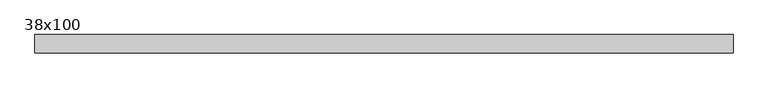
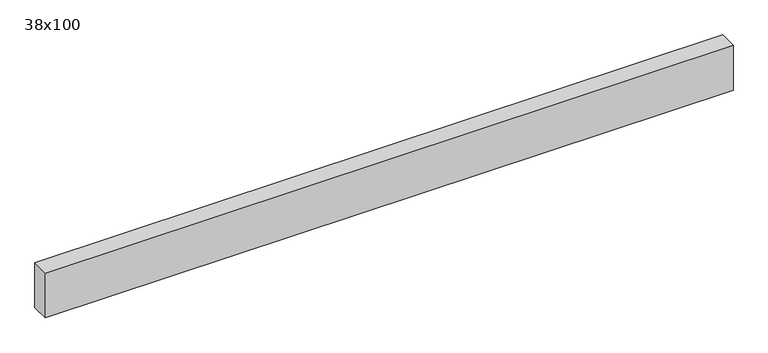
"""IFC4 building model written with IfcOpenShell, lengths in millimetres: beam geometry, Poutre - Bois de construction de dimensions courantes : 38x100."""

import ifcopenshell
import ifcopenshell.guid

model = None  # the IFC model being written
_history = None  # IfcOwnerHistory: only IFC2X3 demands one
_inside = {}  # id of a spatial element -> (the spatial element, [elements in it])
_under = {}  # id of a project, library or spatial element -> (it, [spatial elements below it])
_declared = {}  # id of a project -> (the project, [libraries it declares])
_typed = {}  # id of a type object -> (the type object, [elements of that type])
_made_of = {}  # id of a material, layer set ... -> (it, [elements and type objects made of it])


def new_model(schema):
    """Start an empty IFC model of exactly this schema.

    Asked for "IFC4X3", IfcOpenShell would pick the latest addendum, in which some entities
    have other attributes; the version numbers below select the first issue.
    IFC2X3 requires an IfcOwnerHistory on every rooted entity: one is made here for all.
    """
    global model, _history
    if schema == "IFC4X3":
        model = ifcopenshell.file(schema_version=(4, 3, 0, 0))
    else:
        model = ifcopenshell.file(schema=schema)
    _inside.clear()
    _under.clear()
    _declared.clear()
    _typed.clear()
    _made_of.clear()
    _history = None
    if model.schema == "IFC2X3":
        org = make("IfcOrganization", Name="unknown")
        user = make(
            "IfcPersonAndOrganization",
            ThePerson=make("IfcPerson", FamilyName="unknown"),
            TheOrganization=org,
        )
        app = make(
            "IfcApplication",
            ApplicationDeveloper=org,
            Version="unknown",
            ApplicationFullName="unknown",
            ApplicationIdentifier="unknown",
        )
        _history = make(
            "IfcOwnerHistory",
            OwningUser=user,
            OwningApplication=app,
            ChangeAction="ADDED",
            CreationDate=0,
        )
    return model


def make(cls, **values):
    """One entity of the class cls with the attributes given. An attribute that is None is left unset."""
    return model.create_entity(
        cls, **{name: value for name, value in values.items() if value is not None}
    )


def rooted(cls, **values):
    """An entity with a GlobalId (a new one), such as an element, a storey or a relation."""
    return make(cls, GlobalId=ifcopenshell.guid.new(), OwnerHistory=_history, **values)


def si_unit(unit_type, name, prefix=None):
    """IfcSIUnit, for example si_unit("LENGTHUNIT", "METRE", prefix="MILLI")."""
    return make("IfcSIUnit", UnitType=unit_type, Prefix=prefix, Name=name)


def assignment(units):
    """IfcUnitAssignment: the units of a project."""
    return None if units is None else make("IfcUnitAssignment", Units=units)


def point(xyz):
    """IfcCartesianPoint."""
    return None if xyz is None else make("IfcCartesianPoint", Coordinates=xyz)


def direction(xyz):
    """IfcDirection."""
    return None if xyz is None else make("IfcDirection", DirectionRatios=xyz)


def frame(location, z_axis=None, x_axis=None):
    """IfcAxis2Placement3D, a coordinate frame: its origin and axes. An axis left out is left unset."""
    return make(
        "IfcAxis2Placement3D",
        Location=point(location),
        Axis=direction(z_axis),
        RefDirection=direction(x_axis),
    )


def origin():
    """The frame at (0, 0, 0) with its axes left unset."""
    return frame((0.0, 0.0, 0.0))


def place(relative_to, where):
    """IfcLocalPlacement: puts the frame where relative to a parent placement (None: the world)."""
    return make(
        "IfcLocalPlacement", PlacementRelTo=relative_to, RelativePlacement=where
    )


def context(
    kind, dimensions, precision=None, world=None, true_north=None, identifier=None
):
    """IfcGeometricRepresentationContext, for example the 3D "Model" context."""
    return make(
        "IfcGeometricRepresentationContext",
        ContextIdentifier=identifier,
        ContextType=kind,
        CoordinateSpaceDimension=dimensions,
        Precision=precision,
        WorldCoordinateSystem=world,
        TrueNorth=true_north,
    )


def project(units=None, contexts=None):
    """IfcProject with its units and contexts."""
    return rooted(
        "IfcProject",
        Name="project",
        RepresentationContexts=contexts,
        UnitsInContext=assignment(units),
    )


def spatial(cls, under=None, at=None, **own):
    """A site, building, storey or space (cls), placed at a placement, below another one or the project."""
    s = rooted(cls, ObjectPlacement=at, **own)
    if under is not None:
        _under.setdefault(under.id(), (under, []))[1].append(s)
    return s


def polyline(points):
    """IfcPolyline through the points."""
    return make("IfcPolyline", Points=[point(p) for p in points])


def outline(outer, holes=None, kind="AREA"):
    """IfcArbitraryClosedProfileDef: a profile drawn as a closed curve; with holes, ...WithVoids."""
    if holes is None:
        return make("IfcArbitraryClosedProfileDef", ProfileType=kind, OuterCurve=outer)
    return make(
        "IfcArbitraryProfileDefWithVoids",
        ProfileType=kind,
        OuterCurve=outer,
        InnerCurves=holes,
    )


def extrude(swept, where, along, depth):
    """IfcExtrudedAreaSolid: the profile swept, set in the frame where, extruded along a direction by depth."""
    return make(
        "IfcExtrudedAreaSolid",
        SweptArea=swept,
        Position=where,
        ExtrudedDirection=direction(along),
        Depth=depth,
    )


def shape(context_of_items, identifier, shape_type, items):
    """IfcShapeRepresentation: the items that make up one representation, for example the "Body"."""
    return make(
        "IfcShapeRepresentation",
        ContextOfItems=context_of_items,
        RepresentationIdentifier=identifier,
        RepresentationType=shape_type,
        Items=items,
    )


def source(mapping_origin, context_of_items, identifier, shape_type, items):
    """IfcRepresentationMap: a shape defined once, which mapped items show again and again."""
    return make(
        "IfcRepresentationMap",
        MappingOrigin=mapping_origin,
        MappedRepresentation=shape(context_of_items, identifier, shape_type, items),
    )


def transform(
    local_origin,
    x_axis=None,
    y_axis=None,
    z_axis=None,
    scale=None,
    scale2=None,
    scale3=None,
    uniform=True,
):
    """IfcCartesianTransformationOperator3D, or its non-uniform kind. x_axis, y_axis, z_axis: its Axis1, 2, 3."""
    if uniform:
        return make(
            "IfcCartesianTransformationOperator3D",
            Axis1=direction(x_axis),
            Axis2=direction(y_axis),
            LocalOrigin=point(local_origin),
            Scale=scale,
            Axis3=direction(z_axis),
        )
    return make(
        "IfcCartesianTransformationOperator3DnonUniform",
        Axis1=direction(x_axis),
        Axis2=direction(y_axis),
        LocalOrigin=point(local_origin),
        Scale=scale,
        Axis3=direction(z_axis),
        Scale2=scale2,
        Scale3=scale3,
    )


def mapped(mapping_source, mapping_target):
    """IfcMappedItem: shows the shape of a source again, moved by a transform."""
    return make(
        "IfcMappedItem", MappingSource=mapping_source, MappingTarget=mapping_target
    )


def made_of(thing, what):
    """Note that an element or type object is made of a material, layer set ...; save() writes the relation."""
    if what is not None:
        _made_of.setdefault(what.id(), (what, []))[1].append(thing)
    return thing


def element(
    cls,
    number,
    at=None,
    inside=None,
    cuts=None,
    type_object=None,
    material=None,
    context=None,
    identifier="Body",
    shape_type=None,
    held_by="IfcProductDefinitionShape",
    body=None,
    shapes=None,
    **own,
):
    """One element of the class cls, such as IfcWall. Its Tag is "e" and its number.

    at: its placement. inside: the storey or other place that contains it. cuts: it is an
    opening in that element (IfcRelVoidsElement). A single representation is given by context,
    identifier, shape_type and body (its items); several are given by shapes. held_by: the class
    of the entity that holds the representations. save() writes the other relations.
    """
    e = rooted(cls, Tag="e%d" % number, ObjectPlacement=at, **own)
    if body is not None:
        shapes = [shape(context, identifier, shape_type, body)]
    if shapes is not None:
        e.Representation = make(held_by, Representations=shapes)
    if inside is not None:
        _inside.setdefault(inside.id(), (inside, []))[1].append(e)
    if cuts is not None:
        rooted(
            "IfcRelVoidsElement", RelatingBuildingElement=cuts, RelatedOpeningElement=e
        )
    if type_object is not None:
        _typed.setdefault(type_object.id(), (type_object, []))[1].append(e)
    return made_of(e, material)


def aggregate(whole, parts):
    """IfcRelAggregates: a whole, such as a stair, and the parts it consists of."""
    return rooted("IfcRelAggregates", RelatingObject=whole, RelatedObjects=parts)


def save(model, path):
    """Write the relations noted so far, then the file.

    IfcRelAggregates (storeys below a building ...), IfcRelContainedInSpatialStructure (elements
    in a storey), IfcRelDefinesByType, IfcRelAssociatesMaterial and IfcRelDeclares: one each for
    every whole, place, type object, material and project.
    """
    for whole, parts in _under.values():
        aggregate(whole, parts)
    for where, things in _inside.values():
        rooted(
            "IfcRelContainedInSpatialStructure",
            RelatedElements=things,
            RelatingStructure=where,
        )
    for kind, things in _typed.values():
        rooted("IfcRelDefinesByType", RelatedObjects=things, RelatingType=kind)
    for what, things in _made_of.values():
        rooted("IfcRelAssociatesMaterial", RelatedObjects=things, RelatingMaterial=what)
    for by, libraries in _declared.values():
        rooted("IfcRelDeclares", RelatingContext=by, RelatedDefinitions=libraries)
    model.write(path)


def beam_38x100_5c131170(model_context):
    return source(origin(), model_context, "Body", "SweptSolid", [
        extrude(outline(polyline([(703.5, 19.05), (703.5, -19.05), (-743.5, -19.05), (-743.5, 19.05), (703.5, 19.05)])), frame((0.0, 0.0, -50.0), z_axis=(0.0, 0.0, 1.0), x_axis=(1.0, 0.0, 0.0)), (0.0, 0.0, 1.0), 100.0),
    ])


if __name__ == "__main__":
    model = new_model("IFC4")
    model_context = context("Model", 3, world=origin())
    ifc_project = project(units=[si_unit("LENGTHUNIT", "METRE", prefix="MILLI")], contexts=[model_context])
    site = spatial("IfcSite", under=ifc_project)
    building = spatial("IfcBuilding", under=site)
    placement = place(None, origin())
    beam_38x100_shape = beam_38x100_5c131170(model_context)
    element("IfcBeam", 1, ObjectType="Poutre - Bois de construction de dimensions courantes : 38x100", at=placement, inside=building, context=model_context, shape_type="MappedRepresentation", body=[
        mapped(beam_38x100_shape, transform((0.0, 0.0, 0.0), x_axis=(1.0, 0.0, 0.0), y_axis=(0.0, 1.0, 0.0), z_axis=(0.0, 0.0, 1.0))),
    ])
    save(model, "model.ifc")
